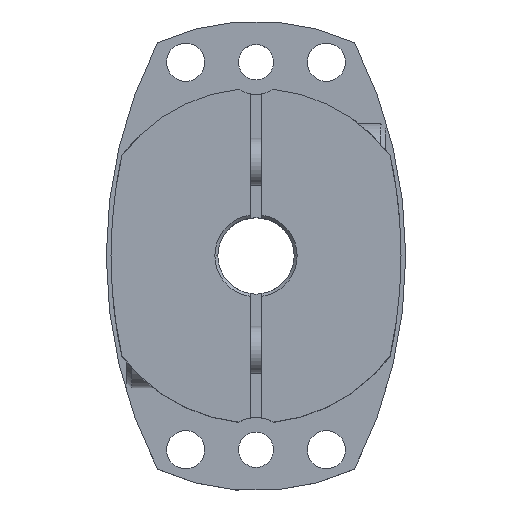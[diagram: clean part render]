
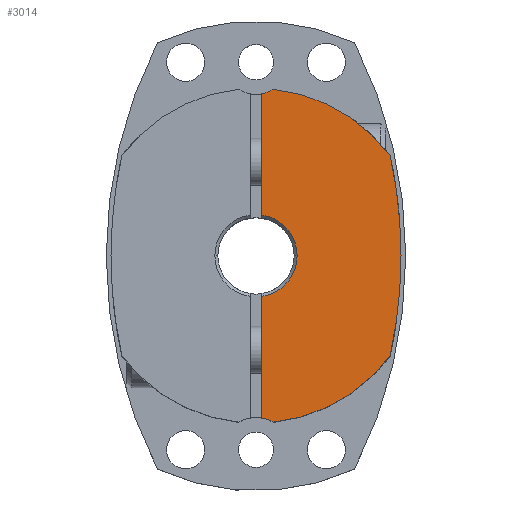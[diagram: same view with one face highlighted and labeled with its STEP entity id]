
A CAD part, top view. The second image highlights one B-rep face of the part: STEP entity #3014.
In plain terms, the highlighted planar face has unit normal (0, 0, 1).
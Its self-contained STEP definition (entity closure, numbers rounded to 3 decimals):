
#373=CARTESIAN_POINT('',(7.,0.,25.5));
#374=VERTEX_POINT('',#373);
#381=CARTESIAN_POINT('',(1.,6.928,25.5));
#382=VERTEX_POINT('',#381);
#383=CARTESIAN_POINT('',(0.,0.,25.5));
#384=DIRECTION('',(0.0,0.0,1.0));
#385=DIRECTION('',(-1.0,0.0,0.0));
#386=AXIS2_PLACEMENT_3D('',#383,#384,#385);
#387=CIRCLE('',#386,7.0);
#388=EDGE_CURVE('',#374,#382,#387,.T.);
#537=CARTESIAN_POINT('',(24.7,0.,25.5));
#538=VERTEX_POINT('',#537);
#658=CARTESIAN_POINT('',(22.845,17.039,25.5));
#659=VERTEX_POINT('',#658);
#666=CARTESIAN_POINT('',(-54.5,0.,25.5));
#667=DIRECTION('',(0.0,0.0,-1.0));
#668=DIRECTION('',(1.0,0.0,0.0));
#669=AXIS2_PLACEMENT_3D('',#666,#667,#668);
#670=CIRCLE('',#669,79.2);
#671=EDGE_CURVE('',#659,#538,#670,.T.);
#2331=CARTESIAN_POINT('',(2.935,28.348,25.5));
#2332=VERTEX_POINT('',#2331);
#2339=CARTESIAN_POINT('',(0.,0.,25.5));
#2340=DIRECTION('',(0.0,0.0,-1.0));
#2341=DIRECTION('',(1.0,0.0,0.0));
#2342=AXIS2_PLACEMENT_3D('',#2339,#2340,#2341);
#2343=CIRCLE('',#2342,28.5);
#2344=EDGE_CURVE('',#2332,#659,#2343,.T.);
#2555=CARTESIAN_POINT('',(22.845,-17.039,25.5));
#2556=VERTEX_POINT('',#2555);
#2557=CARTESIAN_POINT('',(-54.5,0.,25.5));
#2558=DIRECTION('',(0.0,0.0,-1.0));
#2559=DIRECTION('',(1.0,0.0,0.0));
#2560=AXIS2_PLACEMENT_3D('',#2557,#2558,#2559);
#2561=CIRCLE('',#2560,79.2);
#2562=EDGE_CURVE('',#538,#2556,#2561,.T.);
#2679=CARTESIAN_POINT('',(1.,-27.592,25.5));
#2680=VERTEX_POINT('',#2679);
#2696=CARTESIAN_POINT('',(2.935,-28.348,25.5));
#2697=VERTEX_POINT('',#2696);
#2704=CARTESIAN_POINT('',(0.,-33.,25.5));
#2705=DIRECTION('',(0.0,0.0,-1.0));
#2706=DIRECTION('',(1.0,0.0,0.0));
#2707=AXIS2_PLACEMENT_3D('',#2704,#2705,#2706);
#2708=CIRCLE('',#2707,5.5);
#2709=EDGE_CURVE('',#2680,#2697,#2708,.T.);
#2888=CARTESIAN_POINT('',(1.,27.592,25.5));
#2889=VERTEX_POINT('',#2888);
#2896=CARTESIAN_POINT('',(0.,33.,25.5));
#2897=DIRECTION('',(0.0,0.0,-1.0));
#2898=DIRECTION('',(1.0,0.0,0.0));
#2899=AXIS2_PLACEMENT_3D('',#2896,#2897,#2898);
#2900=CIRCLE('',#2899,5.5);
#2901=EDGE_CURVE('',#2332,#2889,#2900,.T.);
#2936=CARTESIAN_POINT('',(1.,-6.928,25.5));
#2937=VERTEX_POINT('',#2936);
#2938=CARTESIAN_POINT('',(1.,-6.928,25.5));
#2939=DIRECTION('',(0.0,-1.0,0.0));
#2940=VECTOR('',#2939,20.663);
#2941=LINE('',#2938,#2940);
#2942=EDGE_CURVE('',#2937,#2680,#2941,.T.);
#2980=CARTESIAN_POINT('',(0.,0.,25.5));
#2981=DIRECTION('',(0.0,0.0,1.0));
#2982=DIRECTION('',(1.0,0.0,0.0));
#2983=AXIS2_PLACEMENT_3D('',#2980,#2981,#2982);
#2984=PLANE('',#2983);
#2985=ORIENTED_EDGE('',*,*,#2709,.T.);
#2986=CARTESIAN_POINT('',(0.,0.,25.5));
#2987=DIRECTION('',(0.0,0.0,-1.0));
#2988=DIRECTION('',(1.0,0.0,0.0));
#2989=AXIS2_PLACEMENT_3D('',#2986,#2987,#2988);
#2990=CIRCLE('',#2989,28.5);
#2991=EDGE_CURVE('',#2556,#2697,#2990,.T.);
#2992=ORIENTED_EDGE('',*,*,#2991,.F.);
#2993=ORIENTED_EDGE('',*,*,#2562,.F.);
#2994=ORIENTED_EDGE('',*,*,#671,.F.);
#2995=ORIENTED_EDGE('',*,*,#2344,.F.);
#2996=ORIENTED_EDGE('',*,*,#2901,.T.);
#2997=CARTESIAN_POINT('',(1.,27.592,25.5));
#2998=DIRECTION('',(0.0,-1.0,0.0));
#2999=VECTOR('',#2998,20.663);
#3000=LINE('',#2997,#2999);
#3001=EDGE_CURVE('',#2889,#382,#3000,.T.);
#3002=ORIENTED_EDGE('',*,*,#3001,.T.);
#3003=ORIENTED_EDGE('',*,*,#388,.F.);
#3004=CARTESIAN_POINT('',(0.,0.,25.5));
#3005=DIRECTION('',(0.0,0.0,1.0));
#3006=DIRECTION('',(-1.0,0.0,0.0));
#3007=AXIS2_PLACEMENT_3D('',#3004,#3005,#3006);
#3008=CIRCLE('',#3007,7.0);
#3009=EDGE_CURVE('',#2937,#374,#3008,.T.);
#3010=ORIENTED_EDGE('',*,*,#3009,.F.);
#3011=ORIENTED_EDGE('',*,*,#2942,.T.);
#3012=EDGE_LOOP('',(#2985,#2992,#2993,#2994,#2995,#2996,#3002,#3003,#3010,#3011));
#3013=FACE_OUTER_BOUND('',#3012,.T.);
#3014=ADVANCED_FACE('',(#3013),#2984,.T.);
